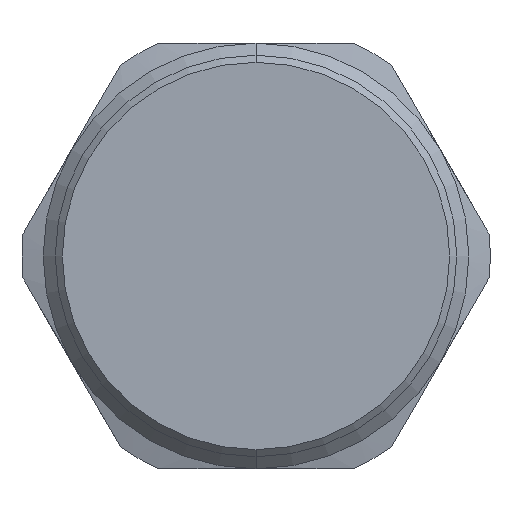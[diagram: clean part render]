
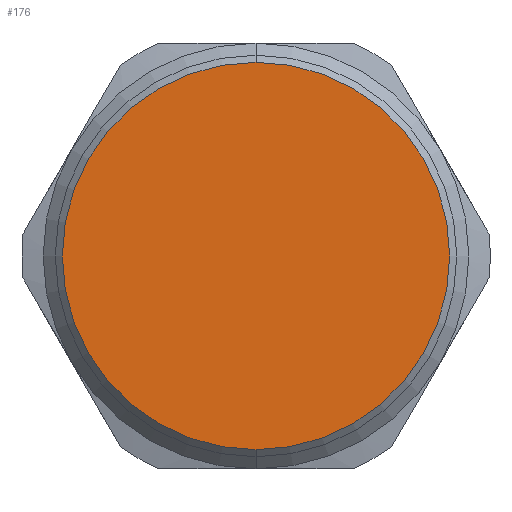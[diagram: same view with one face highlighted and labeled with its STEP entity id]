
A CAD part, front view. The second image highlights one B-rep face of the part: STEP entity #176.
In plain terms, the highlighted planar face has unit normal (0, -1, 0).
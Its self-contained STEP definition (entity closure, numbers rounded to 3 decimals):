
#151=CARTESIAN_POINT('',(0.0,-62.5,-13.65));
#152=VERTEX_POINT('',#151);
#153=CARTESIAN_POINT('',(0.0,-62.5,13.65));
#154=VERTEX_POINT('',#153);
#155=CARTESIAN_POINT('',(0.0,-62.5,0.0));
#156=DIRECTION('',(0.0,-1.0,0.0));
#157=DIRECTION('',(0.0,0.0,-1.0));
#158=AXIS2_PLACEMENT_3D('',#155,#156,#157);
#159=CIRCLE('',#158,13.65);
#160=EDGE_CURVE('no 703',#152,#154,#159,.T.);
#161=ORIENTED_EDGE('',*,*,#160,.T.);
#162=CARTESIAN_POINT('',(0.0,-62.5,0.0));
#163=DIRECTION('',(0.0,-1.0,0.0));
#164=DIRECTION('',(0.0,0.0,-1.0));
#165=AXIS2_PLACEMENT_3D('',#162,#163,#164);
#166=CIRCLE('',#165,13.65);
#167=EDGE_CURVE('no 707',#154,#152,#166,.T.);
#168=ORIENTED_EDGE('',*,*,#167,.T.);
#169=EDGE_LOOP('',(#161,#168));
#170=FACE_OUTER_BOUND('',#169,.T.);
#171=CARTESIAN_POINT('',(0.0,-62.5,0.0));
#172=DIRECTION('',(0.0,-1.0,0.0));
#173=DIRECTION('',(0.0,0.0,-1.0));
#174=AXIS2_PLACEMENT_3D('',#171,#172,#173);
#175=PLANE('',#174);
#176=ADVANCED_FACE('no 694',(#170),#175,.T.);
